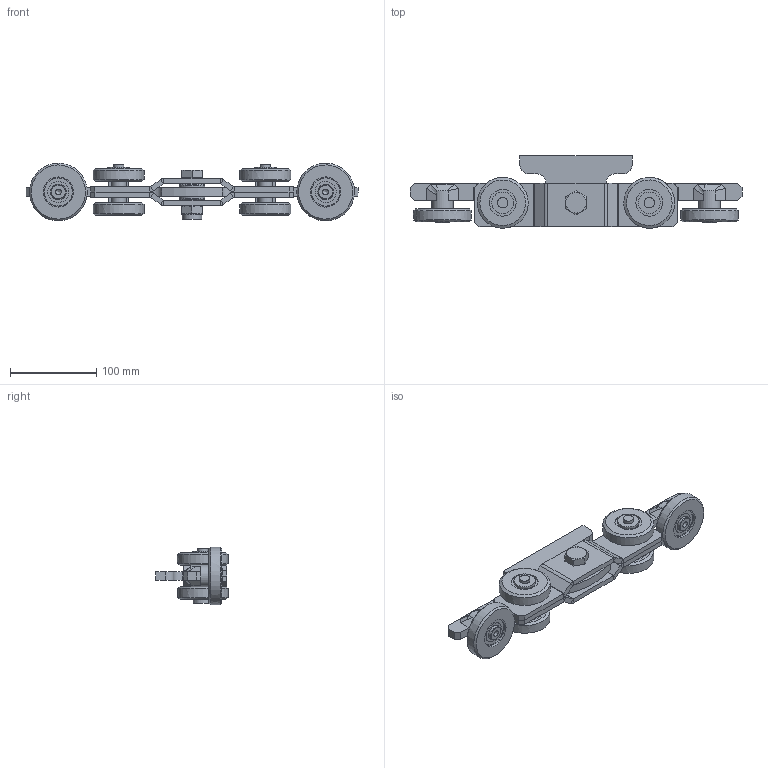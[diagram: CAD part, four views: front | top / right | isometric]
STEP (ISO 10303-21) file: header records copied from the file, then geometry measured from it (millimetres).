
FILE_DESCRIPTION(/* description */ ('Rollenhalter mi Seiten Nr.4'),/* implementation_level */ '2;1');
FILE_NAME(/* name */ 'Q:\sge-ma\Produktmanagement-STB\STB\Workspace\stp\010337936.stp',/* time_stamp */ '2016-07-14T16:16:27+02:00',/* author */ ('avschreier'),/* organization */ (''),/* preprocessor_version */ 'ST-DEVELOPER v16.1',/* originating_system */ 'Autodesk Inventor 2016',/* authorisation */ '');
FILE_SCHEMA (('AUTOMOTIVE_DESIGN { 1 0 10303 214 3 1 1 }'));
Length unit declared in the file: millimetre
Products named in the file (18): 336300049_Schweißnähte; 000302034; 000302098; 337000280; DIN_625-6203_ZZ_en; 000301999; 000301998; 336300049; 000302055; 000302042; 000302018; 337000287; 000303241; DIN_6916-17_en; DIN_1440-12_en; DIN_EN_ISO_4017-M16x45_en; DIN_EN_ISO_7040-M16_en; 010337936
Assembly tree (35 placements, depth 4):
  010337936
    336300049
      336300049_Schweißnähte
      000302034  x2
      000302098  x2
      000301999  x2
        337000280
        DIN_625-6203_ZZ_en
      000301998  x2
    000302055
    000302042  x8
    000302018  x2
    000303241  x4
      337000287
      DIN_625-6203_ZZ_en
    DIN_6916-17_en  x2
    DIN_1440-12_en  x2
    DIN_EN_ISO_4017-M16x45_en
    DIN_EN_ISO_7040-M16_en
Bounding box: 385 x 83.94 x 66.94 mm (x, y, z)
Volume: 512523.6 mm3; surface area: 216892.6 mm2
Topology: 43 solids, 49 shells, 784 faces, 2044 edges, 1318 vertices
Faces by surface type: plane 407, cylinder 151, torus 108, cone 58, sphere 42, bspline 18
Full cylindrical faces by diameter (mm): 12 x4, 13.835 x1, 14.917 x1, 16 x1, 16.9 x4, 17 x8, 17.2 x2, 17.3 x1, 22 x3, 22.5 x1, 24.36 x24, 25 x4, 30 x2, 31 x4, 32.64 x24, 35 x2, 40 x12
Entity records: 10064 total; most frequent: CARTESIAN_POINT 2844, DIRECTION 1411, ORIENTED_EDGE 1316, EDGE_CURVE 658, AXIS2_PLACEMENT_3D 538, VERTEX_POINT 449, EDGE_LOOP 411, LINE 335
